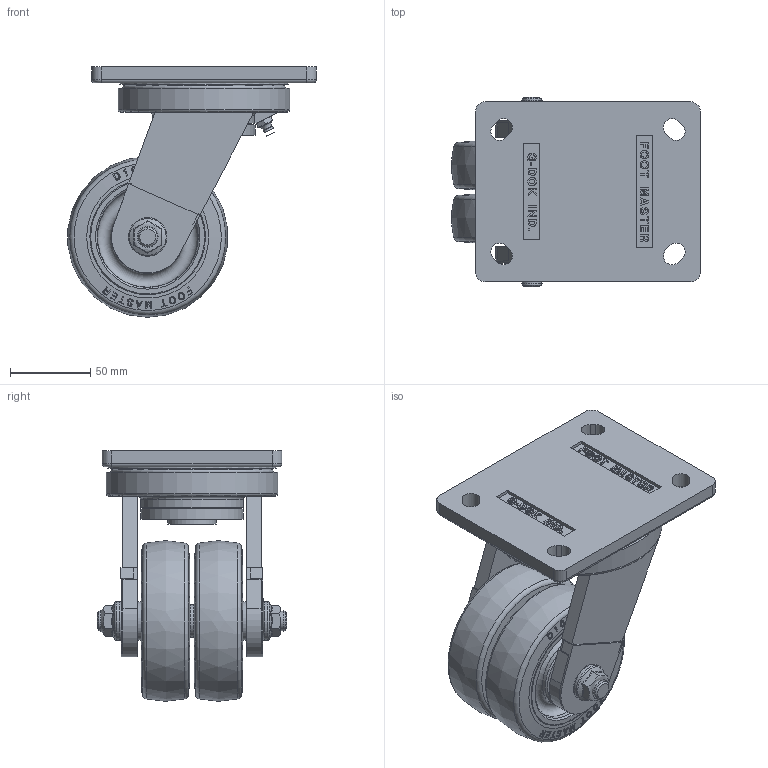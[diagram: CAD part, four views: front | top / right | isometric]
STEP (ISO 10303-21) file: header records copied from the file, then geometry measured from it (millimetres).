
FILE_DESCRIPTION(/* description */ (''),/* implementation_level */ '2;1');
FILE_NAME(/* name */ '\\192.168.10.38\지덕공유\1.기술연구소\1.도면\제품도면\1.양산품\9.1.GXTD-100_110_GXTA-100_GXTS-100\3D 홈페이지용\GXTD-100-ASF-HUD_홈페이지용_R01.stp',/* time_stamp */ '2025-12-19T11:44:27+09:00',/* author */ ('admin'),/* organization */ (''),/* preprocessor_version */ 'ST-DEVELOPER v18.1',/* originating_system */ 'Autodesk Inventor 2021',/* authorisation */ '');
FILE_SCHEMA (('CONFIG_CONTROL_DESIGN'));
Products named in the file (1): GXTD-100-ASF-HUD_홈페이지용
Bounding box: 154.84 x 118 x 156 mm (x, y, z)
Volume: 806349.1 mm3; surface area: 236783.1 mm2
Topology: 23 solids, 23 shells, 1551 faces, 4411 edges, 2959 vertices
Faces by surface type: plane 950, bspline 311, cone 109, cylinder 83, sphere 60, torus 38
Full cylindrical faces by diameter (mm): 5 x1, 6 x1, 10.7 x2, 12 x2, 12.2 x2, 15 x4, 15.1 x2, 18 x1, 19.952 x1, 20 x1, 21.667 x4, 24 x4, 28.333 x4, 30 x3, 34 x1, 35 x6, 36 x1, 37 x1, 48.4 x1, 52 x1, 55 x1, 61 x1, 64 x1, 72 x4, 90 x1, 95 x1, 102 x1, 105 x1, 107 x1
Entity records: 57981 total; most frequent: CARTESIAN_POINT 17872, ORIENTED_EDGE 8734, DIRECTION 6905, EDGE_CURVE 4367, VERTEX_POINT 2966, LINE 2551, VECTOR 2551, AXIS2_PLACEMENT_3D 2177
